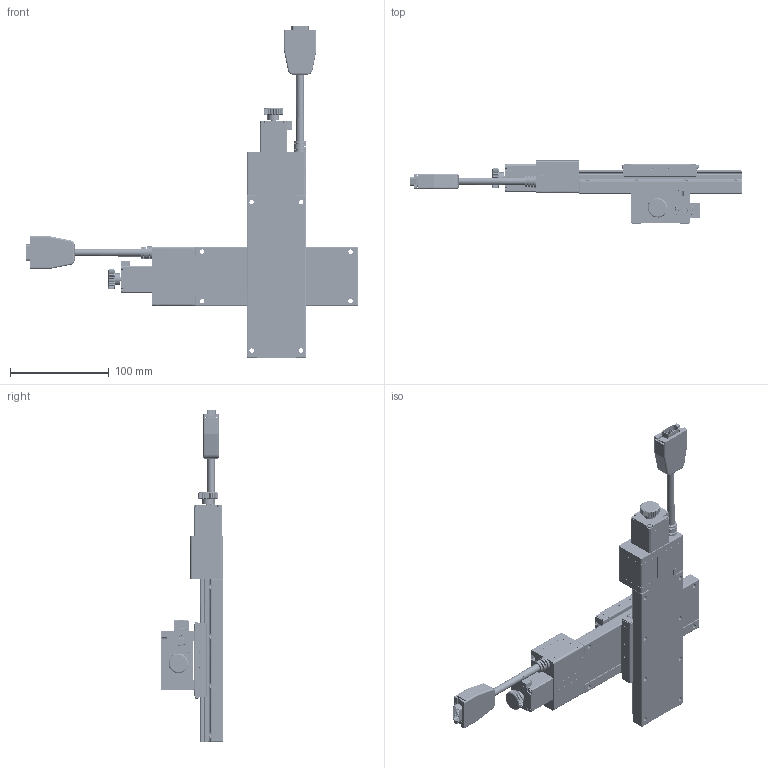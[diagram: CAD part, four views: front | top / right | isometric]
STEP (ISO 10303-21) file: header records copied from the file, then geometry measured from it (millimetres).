
FILE_DESCRIPTION (( 'STEP AP203' ), '1' );
FILE_NAME ('CYN6075-S2?N.STEP', '2023-10-02T00:47:30', ( '' ), ( '' ), 'SwSTEP 2.0', 'SolidWorks 2019', '' );
FILE_SCHEMA (( 'CONFIG_CONTROL_DESIGN' ));
Length unit declared in the file: millimetre
Products named in the file (5): CXN6075-S2?N.STEP; CYN6075-S2?N; Group2^CXN6075-S2_N(2023_s__)_defeature_GMT.STEP_GMT; Group1^CXN6075-S2_N(2023_s__)_defeature_GMT.STEP_GMT
Assembly tree (6 placements, depth 3):
  CYN6075-S2?N
    CXN6075-S2?N.STEP
      Group1^CXN6075-S2_N(2023_s__)_defeature_GMT.STEP_GMT
      Group2^CXN6075-S2_N(2023_s__)_defeature_GMT.STEP_GMT
    CXN6075-S2?N.STEP
      Group1^CXN6075-S2_N(2023_s__)_defeature_GMT.STEP_GMT
      Group2^CXN6075-S2_N(2023_s__)_defeature_GMT.STEP_GMT
Bounding box: 335.6 x 63.5 x 335.6 mm (x, y, z)
Volume: 78093.7 mm3; surface area: 212507.2 mm2
Topology: 6 solids, 40 shells, 8384 faces, 22410 edges, 14028 vertices
Faces by surface type: plane 3434, cylinder 2464, cone 848, torus 824, bspline 546, sphere 268
Entity records: 159028 total; most frequent: CARTESIAN_POINT 67469, ORIENTED_EDGE 21984, DIRECTION 14546, EDGE_CURVE 11051, VERTEX_POINT 7014, B_SPLINE_CURVE_WITH_KNOTS 6540, AXIS2_PLACEMENT_3D 6213, EDGE_LOOP 4432
